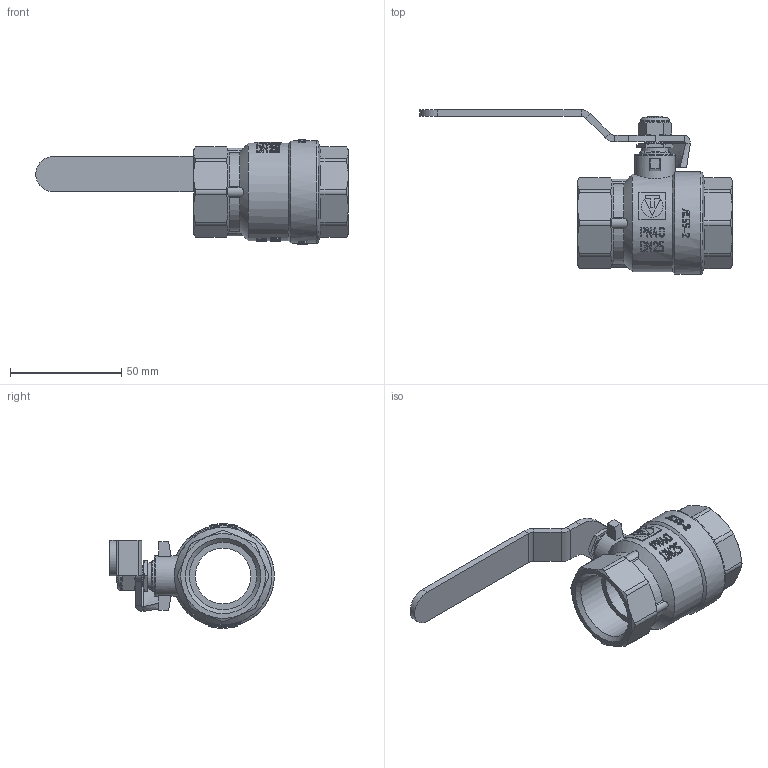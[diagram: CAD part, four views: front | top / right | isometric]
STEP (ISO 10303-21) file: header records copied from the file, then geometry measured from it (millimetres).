
FILE_DESCRIPTION(('STEP AP203'), '1');
FILE_NAME('VT.214S.N.06', '', ('UNSPECIFIED'), ('UNSPECIFIED'), 'C3D Converter', 'C3D Toolkit', '');
FILE_SCHEMA(('CONFIG_CONTROL_DESIGN'));
Length unit declared in the file: millimetre
Products named in the file (1): ВР.491812.052.000-01
Bounding box: 140.48 x 73.99 x 47 mm (x, y, z)
Volume: 64598.5 mm3; surface area: 24127.8 mm2
Topology: 1 solids, 1 shells, 845 faces, 2312 edges, 1513 vertices
Faces by surface type: extrusion 371, plane 319, cylinder 96, cone 52, bspline 4, torus 3
Full cylindrical faces by diameter (mm): 9.5 x1, 12.1 x1, 13 x1, 14 x1, 18.3 x1, 25 x1, 30.292 x2, 43.8 x1, 46 x1
Entity records: 44107 total; most frequent: CARTESIAN_POINT 24434, ORIENTED_EDGE 4558, DIRECTION 2993, EDGE_CURVE 2279, VERTEX_POINT 1508, VECTOR 1321, B_SPLINE_CURVE_WITH_KNOTS 1285, LINE 950
